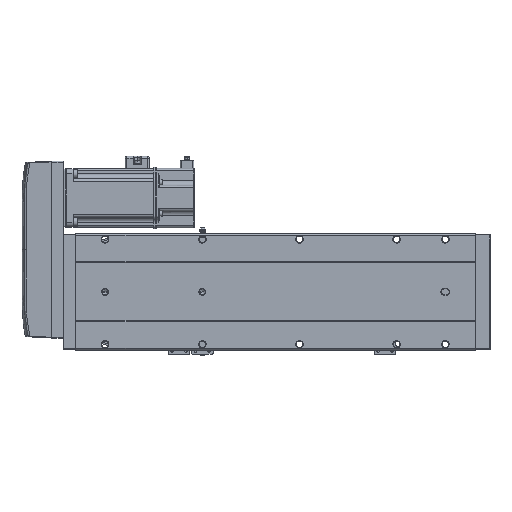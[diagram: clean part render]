
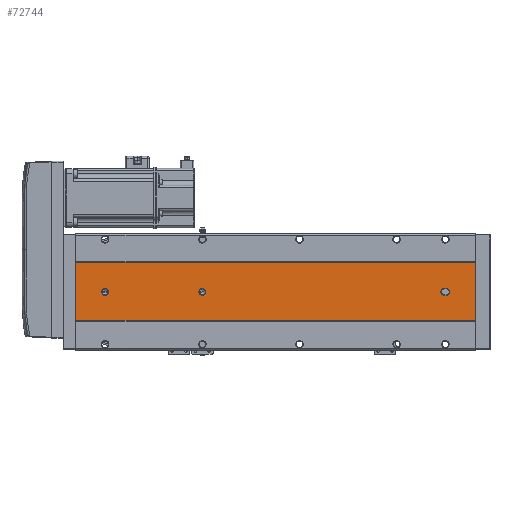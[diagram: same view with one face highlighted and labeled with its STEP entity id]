
A CAD part, front view. The second image highlights one B-rep face of the part: STEP entity #72744.
In plain terms, the highlighted planar face has unit normal (0, -1, 0).
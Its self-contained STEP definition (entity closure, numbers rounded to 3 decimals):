
#1339 = DIRECTION ( 'NONE',  ( 1., 0., 0. ) ) ;
#4538 = EDGE_CURVE ( 'NONE', #95101, #84814, #65898, .T. ) ;
#5746 = DIRECTION ( 'NONE',  ( 0., 1., 0. ) ) ;
#6389 = CIRCLE ( 'NONE', #19269, 3.5 ) ;
#6800 = EDGE_LOOP ( 'NONE', ( #72293, #28618, #49620, #57438 ) ) ;
#6846 = CARTESIAN_POINT ( 'NONE',  ( -39.892, -52.848, 32. ) ) ;
#7841 = CARTESIAN_POINT ( 'NONE',  ( -69.892, -52.848, 0. ) ) ;
#8681 = VECTOR ( 'NONE', #40928, 1000. ) ;
#9081 = VERTEX_POINT ( 'NONE', #86094 ) ;
#9926 = CARTESIAN_POINT ( 'NONE',  ( -43.392, -52.848, 411. ) ) ;
#10297 = ORIENTED_EDGE ( 'NONE', *, *, #73257, .T. ) ;
#10690 = VERTEX_POINT ( 'NONE', #27941 ) ;
#13365 = AXIS2_PLACEMENT_3D ( 'NONE', #92885, #75997, #84611 ) ;
#13662 = DIRECTION ( 'NONE',  ( 0., 0., 1. ) ) ;
#13969 = AXIS2_PLACEMENT_3D ( 'NONE', #61642, #101949, #15429 ) ;
#14141 = DIRECTION ( 'NONE',  ( 0., 0., 1. ) ) ;
#14789 = LINE ( 'NONE', #9926, #8681 ) ;
#15159 = VERTEX_POINT ( 'NONE', #17760 ) ;
#15429 = DIRECTION ( 'NONE',  ( 0., 0., 1. ) ) ;
#15892 = DIRECTION ( 'NONE',  ( 0., 0., -1. ) ) ;
#16674 = VECTOR ( 'NONE', #25122, 1000. ) ;
#16836 = DIRECTION ( 'NONE',  ( 0., 0., 1. ) ) ;
#17760 = CARTESIAN_POINT ( 'NONE',  ( -39.892, -52.848, 277.5 ) ) ;
#18080 = LINE ( 'NONE', #48866, #36565 ) ;
#19269 = AXIS2_PLACEMENT_3D ( 'NONE', #84683, #5746, #13662 ) ;
#20789 = VERTEX_POINT ( 'NONE', #76513 ) ;
#20896 = LINE ( 'NONE', #7841, #31985 ) ;
#21506 = FACE_BOUND ( 'NONE', #66541, .T. ) ;
#21908 = EDGE_LOOP ( 'NONE', ( #10297, #77850, #83114, #88231, #81078 ) ) ;
#22354 = CIRCLE ( 'NONE', #41342, 3.5 ) ;
#23958 = VERTEX_POINT ( 'NONE', #34873 ) ;
#25122 = DIRECTION ( 'NONE',  ( 0., 0., -1. ) ) ;
#25227 = CARTESIAN_POINT ( 'NONE',  ( -39.892, -52.848, 384.5 ) ) ;
#26821 = CARTESIAN_POINT ( 'NONE',  ( -39.892, -52.848, 377.5 ) ) ;
#27941 = CARTESIAN_POINT ( 'NONE',  ( -43.392, -52.848, 30. ) ) ;
#28417 = DIRECTION ( 'NONE',  ( 0., 1., 0. ) ) ;
#28618 = ORIENTED_EDGE ( 'NONE', *, *, #34558, .F. ) ;
#28944 = ORIENTED_EDGE ( 'NONE', *, *, #44966, .T. ) ;
#29516 = VERTEX_POINT ( 'NONE', #39056 ) ;
#31985 = VECTOR ( 'NONE', #93051, 1000. ) ;
#34391 = VERTEX_POINT ( 'NONE', #56685 ) ;
#34558 = EDGE_CURVE ( 'NONE', #72695, #20789, #67031, .T. ) ;
#34602 = EDGE_CURVE ( 'NONE', #15159, #29516, #100388, .T. ) ;
#34873 = CARTESIAN_POINT ( 'NONE',  ( -43.392, -52.848, 32. ) ) ;
#36565 = VECTOR ( 'NONE', #1339, 1000. ) ;
#36634 = EDGE_CURVE ( 'NONE', #87435, #41379, #22354, .T. ) ;
#37304 = CARTESIAN_POINT ( 'NONE',  ( -39.892, -52.848, 281. ) ) ;
#37812 = ORIENTED_EDGE ( 'NONE', *, *, #34602, .T. ) ;
#39056 = CARTESIAN_POINT ( 'NONE',  ( -39.892, -52.848, 284.5 ) ) ;
#40928 = DIRECTION ( 'NONE',  ( 0., 0., 1. ) ) ;
#41342 = AXIS2_PLACEMENT_3D ( 'NONE', #87520, #78886, #16836 ) ;
#41379 = VERTEX_POINT ( 'NONE', #25227 ) ;
#43527 = DIRECTION ( 'NONE',  ( 0., 0., -1. ) ) ;
#44966 = EDGE_CURVE ( 'NONE', #29516, #15159, #87079, .T. ) ;
#48866 = CARTESIAN_POINT ( 'NONE',  ( -69.892, -52.848, 411. ) ) ;
#49620 = ORIENTED_EDGE ( 'NONE', *, *, #52690, .F. ) ;
#50497 = ORIENTED_EDGE ( 'NONE', *, *, #36634, .T. ) ;
#50984 = VECTOR ( 'NONE', #43527, 1000. ) ;
#52690 = EDGE_CURVE ( 'NONE', #34391, #72695, #18080, .T. ) ;
#53403 = CARTESIAN_POINT ( 'NONE',  ( -69.892, -52.848, 411. ) ) ;
#55397 = CIRCLE ( 'NONE', #13969, 3.5 ) ;
#56685 = CARTESIAN_POINT ( 'NONE',  ( -69.892, -52.848, 411. ) ) ;
#57438 = ORIENTED_EDGE ( 'NONE', *, *, #71606, .T. ) ;
#58586 = LINE ( 'NONE', #65408, #16674 ) ;
#60264 = FACE_BOUND ( 'NONE', #21908, .T. ) ;
#61354 = CIRCLE ( 'NONE', #13365, 3.5 ) ;
#61360 = DIRECTION ( 'NONE',  ( 0., 1., 0. ) ) ;
#61642 = CARTESIAN_POINT ( 'NONE',  ( -39.892, -52.848, 30. ) ) ;
#62235 = VECTOR ( 'NONE', #15892, 1000. ) ;
#62739 = CIRCLE ( 'NONE', #67993, 3.5 ) ;
#64123 = CARTESIAN_POINT ( 'NONE',  ( -36.392, -52.848, 411. ) ) ;
#64922 = FACE_BOUND ( 'NONE', #77233, .T. ) ;
#65408 = CARTESIAN_POINT ( 'NONE',  ( -69.892, -52.848, 411. ) ) ;
#65749 = CARTESIAN_POINT ( 'NONE',  ( -36.392, -52.848, 32. ) ) ;
#65898 = LINE ( 'NONE', #64123, #62235 ) ;
#66541 = EDGE_LOOP ( 'NONE', ( #37812, #28944 ) ) ;
#66978 = CARTESIAN_POINT ( 'NONE',  ( -39.892, -52.848, 281. ) ) ;
#67031 = LINE ( 'NONE', #74944, #50984 ) ;
#67993 = AXIS2_PLACEMENT_3D ( 'NONE', #6846, #101623, #101281 ) ;
#68230 = EDGE_CURVE ( 'NONE', #9081, #20789, #20896, .T. ) ;
#68232 = EDGE_CURVE ( 'NONE', #88273, #10690, #55397, .T. ) ;
#69130 = EDGE_CURVE ( 'NONE', #41379, #87435, #61354, .T. ) ;
#71606 = EDGE_CURVE ( 'NONE', #34391, #9081, #58586, .T. ) ;
#71822 = AXIS2_PLACEMENT_3D ( 'NONE', #53403, #61360, #14141 ) ;
#72293 = ORIENTED_EDGE ( 'NONE', *, *, #68230, .T. ) ;
#72695 = VERTEX_POINT ( 'NONE', #92444 ) ;
#72744 = ADVANCED_FACE ( 'NONE', ( #60264, #21506, #64922, #95509 ), #77564, .F. ) ;
#73257 = EDGE_CURVE ( 'NONE', #10690, #23958, #14789, .T. ) ;
#74944 = CARTESIAN_POINT ( 'NONE',  ( -9.892, -52.848, 411. ) ) ;
#75997 = DIRECTION ( 'NONE',  ( 0., 1., 0. ) ) ;
#76513 = CARTESIAN_POINT ( 'NONE',  ( -9.892, -52.848, 0. ) ) ;
#76866 = AXIS2_PLACEMENT_3D ( 'NONE', #37304, #28417, #99756 ) ;
#77233 = EDGE_LOOP ( 'NONE', ( #50497, #97171 ) ) ;
#77564 = PLANE ( 'NONE',  #71822 ) ;
#77850 = ORIENTED_EDGE ( 'NONE', *, *, #97835, .T. ) ;
#78886 = DIRECTION ( 'NONE',  ( 0., 1., 0. ) ) ;
#81078 = ORIENTED_EDGE ( 'NONE', *, *, #68232, .T. ) ;
#82559 = DIRECTION ( 'NONE',  ( 0., 0., 1. ) ) ;
#83114 = ORIENTED_EDGE ( 'NONE', *, *, #4538, .T. ) ;
#84482 = CARTESIAN_POINT ( 'NONE',  ( -39.892, -52.848, 26.5 ) ) ;
#84611 = DIRECTION ( 'NONE',  ( 0., 0., 1. ) ) ;
#84683 = CARTESIAN_POINT ( 'NONE',  ( -39.892, -52.848, 30. ) ) ;
#84814 = VERTEX_POINT ( 'NONE', #88598 ) ;
#86094 = CARTESIAN_POINT ( 'NONE',  ( -69.892, -52.848, 0. ) ) ;
#87079 = CIRCLE ( 'NONE', #88194, 3.5 ) ;
#87435 = VERTEX_POINT ( 'NONE', #26821 ) ;
#87520 = CARTESIAN_POINT ( 'NONE',  ( -39.892, -52.848, 381. ) ) ;
#87615 = EDGE_CURVE ( 'NONE', #84814, #88273, #6389, .T. ) ;
#88194 = AXIS2_PLACEMENT_3D ( 'NONE', #66978, #97361, #82559 ) ;
#88231 = ORIENTED_EDGE ( 'NONE', *, *, #87615, .T. ) ;
#88273 = VERTEX_POINT ( 'NONE', #84482 ) ;
#88598 = CARTESIAN_POINT ( 'NONE',  ( -36.392, -52.848, 30. ) ) ;
#92444 = CARTESIAN_POINT ( 'NONE',  ( -9.892, -52.848, 411. ) ) ;
#92885 = CARTESIAN_POINT ( 'NONE',  ( -39.892, -52.848, 381. ) ) ;
#93051 = DIRECTION ( 'NONE',  ( 1., 0., 0. ) ) ;
#95101 = VERTEX_POINT ( 'NONE', #65749 ) ;
#95509 = FACE_OUTER_BOUND ( 'NONE', #6800, .T. ) ;
#97171 = ORIENTED_EDGE ( 'NONE', *, *, #69130, .T. ) ;
#97361 = DIRECTION ( 'NONE',  ( 0., 1., 0. ) ) ;
#97835 = EDGE_CURVE ( 'NONE', #23958, #95101, #62739, .T. ) ;
#99756 = DIRECTION ( 'NONE',  ( 0., 0., 1. ) ) ;
#100388 = CIRCLE ( 'NONE', #76866, 3.5 ) ;
#101281 = DIRECTION ( 'NONE',  ( 0., 0., 1. ) ) ;
#101623 = DIRECTION ( 'NONE',  ( 0., 1., 0. ) ) ;
#101949 = DIRECTION ( 'NONE',  ( 0., 1., 0. ) ) ;
